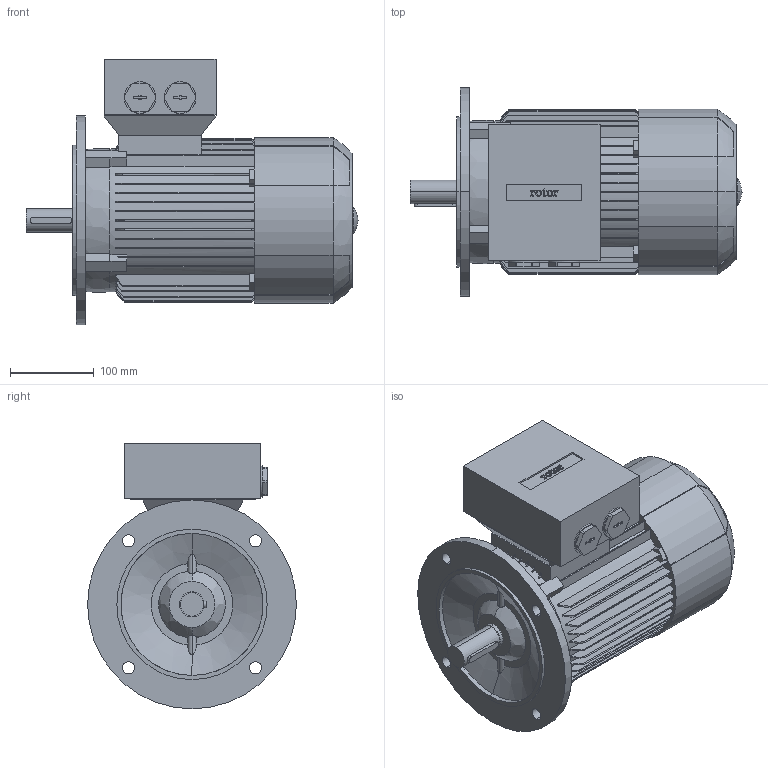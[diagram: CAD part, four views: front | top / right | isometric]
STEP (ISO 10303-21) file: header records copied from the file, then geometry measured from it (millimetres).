
FILE_DESCRIPTION (( 'STEP AP214' ), '1' );
FILE_NAME ('6RN100L04E25 IM3001.STEP', '2014-09-15T11:11:10', ( 'rbc_ict' ), ( 'REGAL' ), 'SwSTEP 2.0', 'SolidWorks 2012', '' );
FILE_SCHEMA (( 'AUTOMOTIVE_DESIGN' ));
Length unit declared in the file: millimetre
Products named in the file (1): 6RN100L04E25 IM3001
Bounding box: 397.5 x 250 x 318 mm (x, y, z)
Volume: 10650702.3 mm3; surface area: 559022.5 mm2
Topology: 1 solids, 1 shells, 622 faces, 1766 edges, 1166 vertices
Faces by surface type: plane 358, bspline 147, cylinder 111, cone 6
Entity records: 24399 total; most frequent: CARTESIAN_POINT 9053, ORIENTED_EDGE 3528, DIRECTION 2768, EDGE_CURVE 1764, VERTEX_POINT 1166, VECTOR 970, LINE 970, AXIS2_PLACEMENT_3D 899
